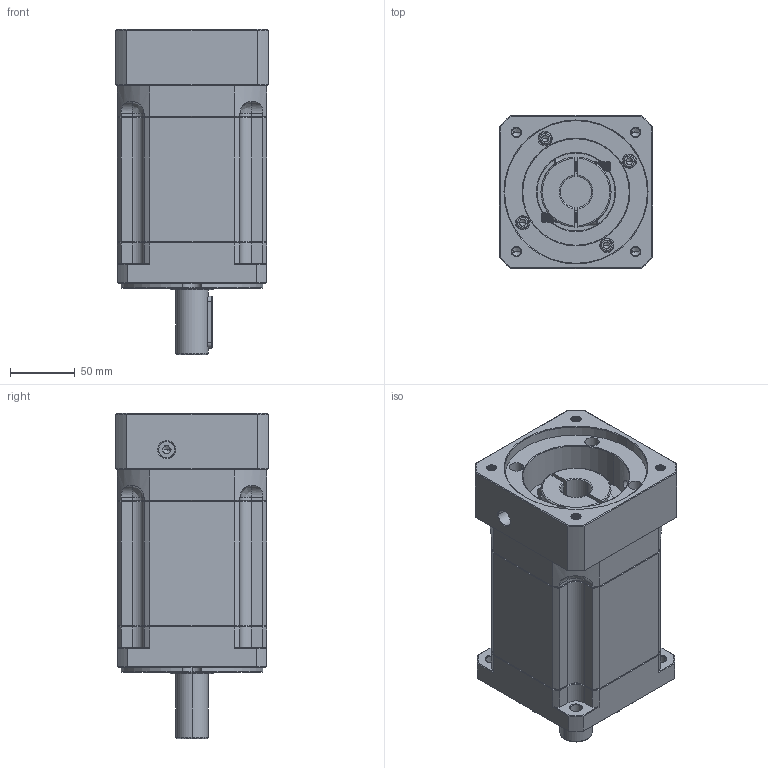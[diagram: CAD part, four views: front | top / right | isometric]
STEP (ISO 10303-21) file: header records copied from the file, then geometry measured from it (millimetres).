
FILE_DESCRIPTION (( 'STEP AP214' ), '1' );
FILE_NAME ('ZB115A-D25-L3-24-110-130-M8.step', '2023-03-02T08:58:51', ( '' ), ( 'Microsoft' ), 'SwSTEP 2.0', 'SolidWorks 2016', '' );
FILE_SCHEMA (( 'AUTOMOTIVE_DESIGN' ));
Length unit declared in the file: millimetre
Products named in the file (1): ZB115A-D25-L3-24-110-130-M8
Bounding box: 118 x 118 x 250.5 mm (x, y, z)
Volume: 2202664.3 mm3; surface area: 193567.2 mm2
Topology: 6 solids, 6 shells, 2117 faces, 5466 edges, 3444 vertices
Faces by surface type: plane 964, cylinder 441, cone 367, bspline 325, torus 20
Entity records: 113203 total; most frequent: CARTESIAN_POINT 41223, ORIENTED_EDGE 10864, DIRECTION 8918, EDGE_CURVE 5432, VERTEX_POINT 3444, LINE 3374, VECTOR 3374, AXIS2_PLACEMENT_3D 2772
